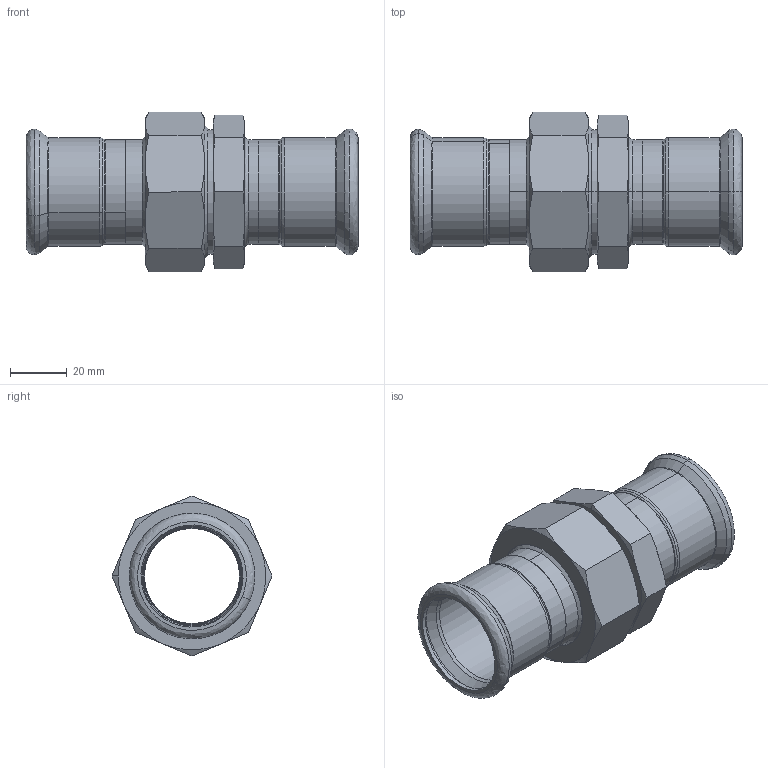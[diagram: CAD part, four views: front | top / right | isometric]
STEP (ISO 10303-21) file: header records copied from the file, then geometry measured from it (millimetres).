
FILE_DESCRIPTION (( 'STEP AP203' ), '1' );
FILE_NAME ('GDA5475.STEP', '2019-01-17T02:17:29', ( '' ), ( '' ), 'SwSTEP 2.0', 'SolidWorks 2015', '' );
FILE_SCHEMA (( 'CONFIG_CONTROL_DESIGN' ));
Length unit declared in the file: millimetre
Products named in the file (7): 35｡ﾁ1_; ZL-Ⅰ-01×1_; 35; 1.5; GDA5475; UN-Ⅰ-01×1_; T-ｉ-01-35
Assembly tree (7 placements, depth 3):
  GDA5475
    1.5
    35  x2
      T-ｉ-01-35
    ZL-Ⅰ-01×1_
    35｡ﾁ1_
    UN-Ⅰ-01×1_
Bounding box: 117 x 56.28 x 56.28 mm (x, y, z)
Volume: 59585.4 mm3; surface area: 43504.5 mm2
Topology: 6 solids, 6 shells, 181 faces, 374 edges, 212 vertices
Faces by surface type: cone 60, cylinder 44, bspline 42, plane 35
Entity records: 5323 total; most frequent: CARTESIAN_POINT 1679, DIRECTION 632, ORIENTED_EDGE 584, EDGE_CURVE 292, AXIS2_PLACEMENT_3D 281, VERTEX_POINT 168, EDGE_LOOP 156, CIRCLE 152
